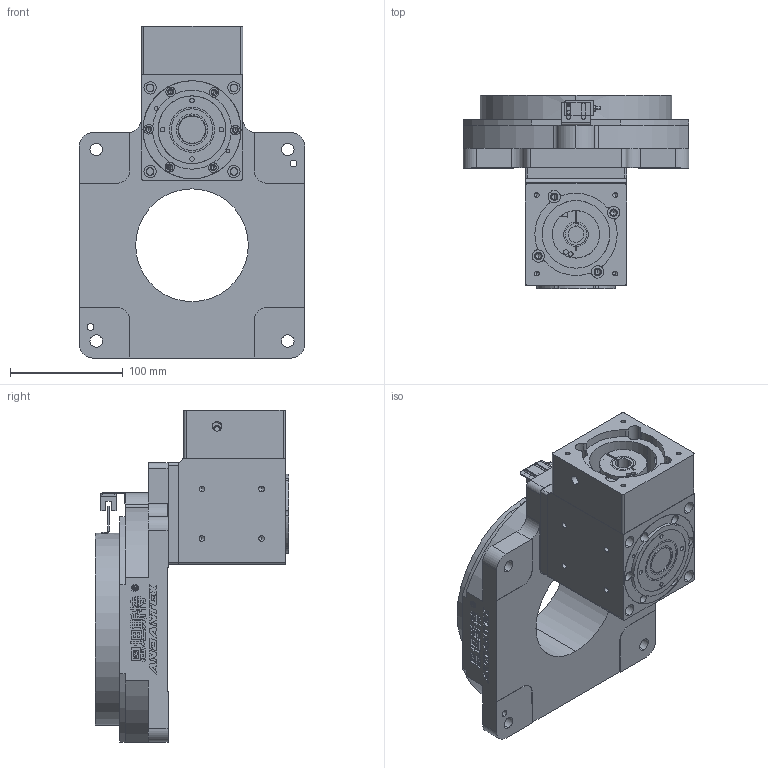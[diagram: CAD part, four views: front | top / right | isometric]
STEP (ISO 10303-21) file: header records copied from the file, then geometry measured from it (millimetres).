
FILE_DESCRIPTION(('Open CASCADE Model'),'2;1');
FILE_NAME('Open CASCADE Shape Model','2026-10-11T02:49:03',('Author'),( 'Open CASCADE'),'Open CASCADE STEP processor 7.8','Open CASCADE 7.8' ,'Unknown');
FILE_SCHEMA(('AUTOMOTIVE_DESIGN { 1 0 10303 214 1 1 1 1 }'));
Length unit declared in the file: millimetre
Products named in the file (3): NTFA200-R-10-PVFD90-B3(配86步进 输入14-73-98.4-M5); NTFA200-R-10-PVFD90-B3(配86步进 输入14-73-98.4-M5)-01; NTFA200-R-10-PVFD90-B3(配86步进 输入14-73-98.4-M5)-02
Assembly tree (2 placements, depth 2):
  NTFA200-R-10-PVFD90-B3(配86步进 输入14-73-98.4-M5)
    NTFA200-R-10-PVFD90-B3(配86步进 输入14-73-98.4-M5)-01
    NTFA200-R-10-PVFD90-B3(配86步进 输入14-73-98.4-M5)-02
Bounding box: 200 x 171.5 x 294.5 mm (x, y, z)
Volume: 2487104 mm3; surface area: 397998.8 mm2
Topology: 20 solids, 20 shells, 1915 faces, 5676 edges, 3676 vertices
Faces by surface type: plane 889, cylinder 502, bspline 340, cone 184
Entity records: 223148 total; most frequent: CARTESIAN_POINT 123474, DIRECTION 15326, ORIENTED_EDGE 11168, PCURVE 11168, DEFINITIONAL_REPRESENTATION 11168, LINE 8630, VECTOR 8630, EDGE_CURVE 5584
